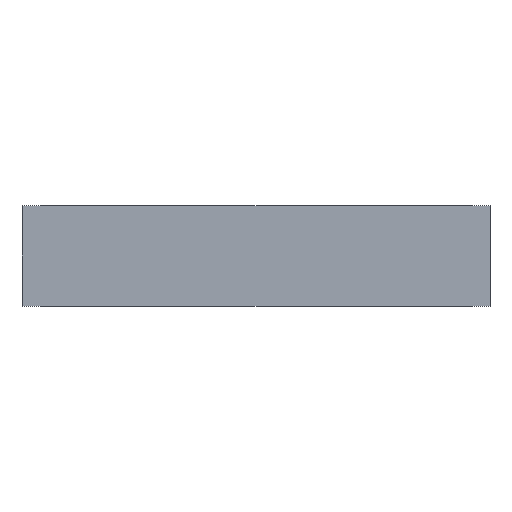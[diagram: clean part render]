
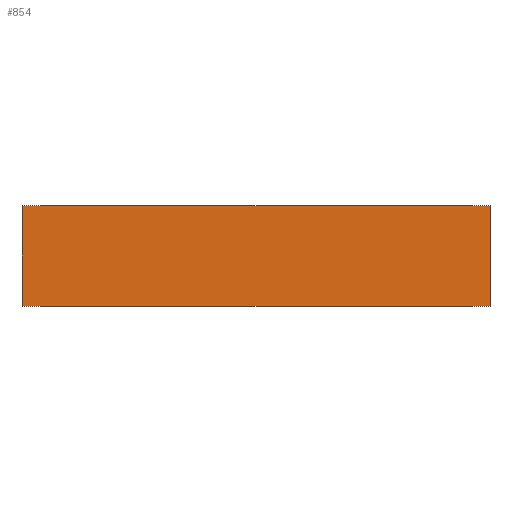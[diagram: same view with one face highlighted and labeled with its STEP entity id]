
A CAD part, front view. The second image highlights one B-rep face of the part: STEP entity #854.
In plain terms, the highlighted planar face has unit normal (0, -1, 0).
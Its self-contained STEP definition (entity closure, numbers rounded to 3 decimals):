
#7 = LINE ( 'NONE', #612, #690 ) ;
#211 = VERTEX_POINT ( 'NONE', #548 ) ;
#215 = VERTEX_POINT ( 'NONE', #535 ) ;
#349 = CARTESIAN_POINT ( 'NONE',  ( -151., 0., 0. ) ) ;
#352 = DIRECTION ( 'NONE',  ( -1., 0., 0. ) ) ;
#355 = DIRECTION ( 'NONE',  ( 0., 1., 0. ) ) ;
#364 = CARTESIAN_POINT ( 'NONE',  ( -151., 0., 65. ) ) ;
#368 = PLANE ( 'NONE',  #1014 ) ;
#415 = EDGE_CURVE ( 'NONE', #215, #620, #7, .T. ) ;
#433 = EDGE_CURVE ( 'NONE', #215, #663, #805, .T. ) ;
#434 = EDGE_CURVE ( 'NONE', #663, #211, #810, .T. ) ;
#440 = EDGE_CURVE ( 'NONE', #620, #211, #784, .T. ) ;
#467 = CARTESIAN_POINT ( 'NONE',  ( 151., 0., 65. ) ) ;
#529 = DIRECTION ( 'NONE',  ( 0., 0., -1. ) ) ;
#535 = CARTESIAN_POINT ( 'NONE',  ( -151., 0., 65. ) ) ;
#548 = CARTESIAN_POINT ( 'NONE',  ( 151., 0., 0. ) ) ;
#552 = DIRECTION ( 'NONE',  ( 1., 0., 0. ) ) ;
#555 = CARTESIAN_POINT ( 'NONE',  ( 151., 0., 65. ) ) ;
#556 = DIRECTION ( 'NONE',  ( 0., 0., -1. ) ) ;
#557 = CARTESIAN_POINT ( 'NONE',  ( -151., 0., 65. ) ) ;
#560 = CARTESIAN_POINT ( 'NONE',  ( -151., 0., 0. ) ) ;
#608 = DIRECTION ( 'NONE',  ( 1., 0., 0. ) ) ;
#612 = CARTESIAN_POINT ( 'NONE',  ( -151., 0., 65. ) ) ;
#620 = VERTEX_POINT ( 'NONE', #467 ) ;
#663 = VERTEX_POINT ( 'NONE', #349 ) ;
#690 = VECTOR ( 'NONE', #608, 1000. ) ;
#719 = FACE_OUTER_BOUND ( 'NONE', #966, .T. ) ;
#784 = LINE ( 'NONE', #555, #789 ) ;
#789 = VECTOR ( 'NONE', #529, 1000. ) ;
#794 = VECTOR ( 'NONE', #556, 1000. ) ;
#796 = VECTOR ( 'NONE', #552, 1000. ) ;
#805 = LINE ( 'NONE', #557, #794 ) ;
#810 = LINE ( 'NONE', #560, #796 ) ;
#854 = ADVANCED_FACE ( 'NONE', ( #719 ), #368, .F. ) ;
#895 = ORIENTED_EDGE ( 'NONE', *, *, #433, .T. ) ;
#896 = ORIENTED_EDGE ( 'NONE', *, *, #415, .F. ) ;
#897 = ORIENTED_EDGE ( 'NONE', *, *, #440, .F. ) ;
#898 = ORIENTED_EDGE ( 'NONE', *, *, #434, .T. ) ;
#966 = EDGE_LOOP ( 'NONE', ( #898, #897, #896, #895 ) ) ;
#1014 = AXIS2_PLACEMENT_3D ( 'NONE', #364, #355, #352 ) ;
